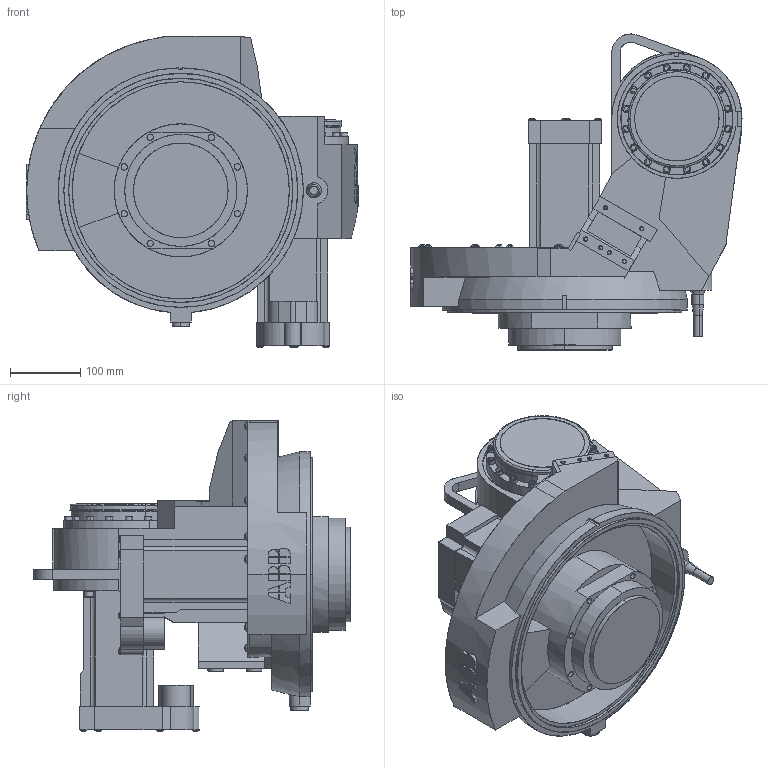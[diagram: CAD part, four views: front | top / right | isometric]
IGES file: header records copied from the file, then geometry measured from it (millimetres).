
Start section: SolidWorks IGES file using analytic representation for surfaces
Global section: file name: C:\2\Original\IRB1520ID_4_150__02_link1_iges_j.IGS; native system: SolidWorks 2010; preprocessor: SolidWorks 2010; author: CNWESUN5; date: 130409.125737; units: millimetre
Bounding box: 474 x 451.26 x 444.87 mm (x, y, z)
Surface area: 1069542.9 mm2 (no closed solid volume)
Topology: 0 solids, 0 shells, 1179 faces, 16234 edges, 16234 vertices
Faces by surface type: bspline 710, revolution 469
